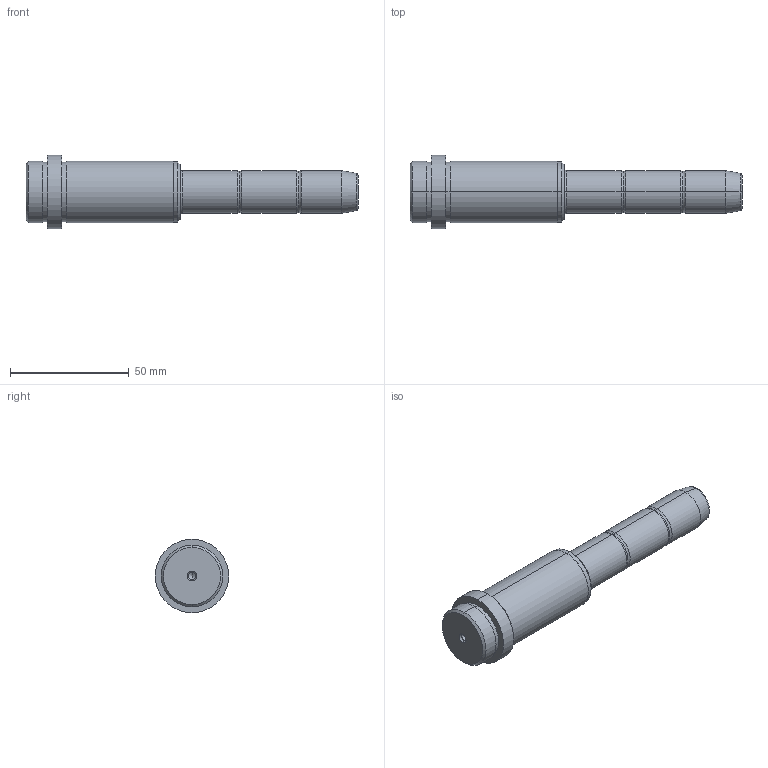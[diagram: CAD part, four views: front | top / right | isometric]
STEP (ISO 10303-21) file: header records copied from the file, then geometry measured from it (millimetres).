
FILE_DESCRIPTION( ( 'STEP AP203' ), '1' );
FILE_NAME( 'C:/Projects/D03 - 18x56x75.step', '2003-01-02T23:41:22', ( ' ' ), ( ' ' ), 'XStep 1.0', ' ', ' ' );
FILE_SCHEMA( ( 'CONFIG_CONTROL_DESIGN' ) );
Length unit declared in the file: metre
Products named in the file (1): 1
Bounding box: 140 x 31 x 31 mm (x, y, z)
Volume: 54477.9 mm3; surface area: 11152.3 mm2
Topology: 1 solids, 1 shells, 56 faces, 113 edges, 64 vertices
Faces by surface type: revolution 36, bspline 20
Entity records: 1691 total; most frequent: CARTESIAN_POINT 513, ORIENTED_EDGE 220, DIRECTION 218, EDGE_CURVE 110, AXIS2_PLACEMENT_3D 73, CIRCLE 72, EDGE_LOOP 64, VERTEX_POINT 64
